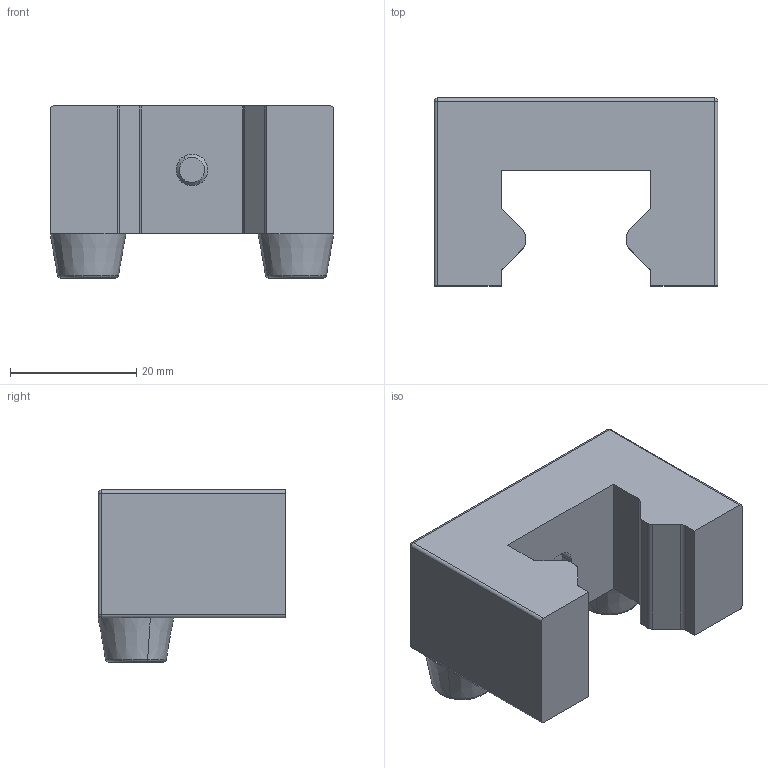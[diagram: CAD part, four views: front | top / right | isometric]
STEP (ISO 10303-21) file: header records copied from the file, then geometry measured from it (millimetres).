
FILE_DESCRIPTION (( 'STEP AP214' ), '1' );
FILE_NAME ('2.9028 HG25.STEP', '2025-09-23T07:18:06', ( '' ), ( '' ), 'SwSTEP 2.0', 'SolidWorks 2025', '' );
FILE_SCHEMA (( 'AUTOMOTIVE_DESIGN' ));
Length unit declared in the file: millimetre
Products named in the file (1): 2.9028 HG25
Bounding box: 45 x 29.8 x 27.3 mm (x, y, z)
Surface area: 7001.9 mm2 (no closed solid volume)
Topology: 0 solids, 7 shells, 161 faces, 453 edges, 302 vertices
Faces by surface type: plane 88, bspline 23, cylinder 22, cone 16, torus 8, sphere 4
Entity records: 8340 total; most frequent: CARTESIAN_POINT 2600, ORIENTED_EDGE 824, DIRECTION 761, EDGE_CURVE 449, VERTEX_POINT 302, VECTOR 275, LINE 275, AXIS2_PLACEMENT_3D 243
